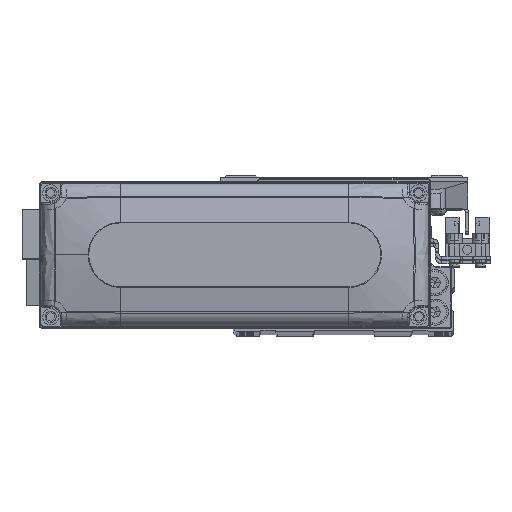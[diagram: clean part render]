
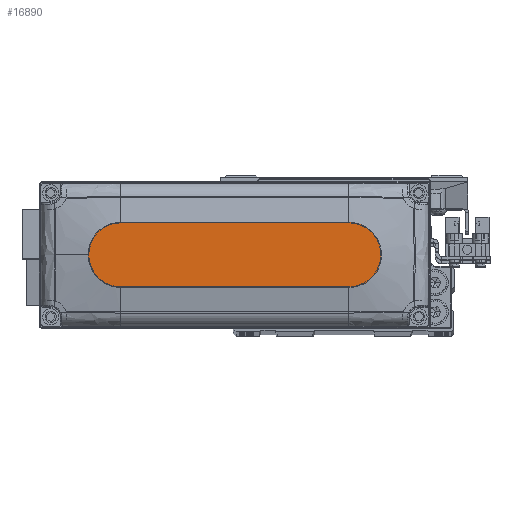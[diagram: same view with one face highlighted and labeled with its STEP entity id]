
A CAD part, top view. The second image highlights one B-rep face of the part: STEP entity #16890.
In plain terms, the highlighted planar face has unit normal (0, 0, 1).
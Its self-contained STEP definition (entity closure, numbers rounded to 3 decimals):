
#58 = CARTESIAN_POINT ( 'NONE',  ( 35., 0., 28. ) ) ;
#1032 = CARTESIAN_POINT ( 'NONE',  ( -35., 0., 28. ) ) ;
#2135 = VERTEX_POINT ( 'NONE', #6939 ) ;
#3746 = LINE ( 'NONE', #18021, #22053 ) ;
#4628 = ORIENTED_EDGE ( 'NONE', *, *, #12745, .T. ) ;
#5052 = CARTESIAN_POINT ( 'NONE',  ( -35., -10., 28. ) ) ;
#5202 = EDGE_CURVE ( 'NONE', #2135, #32108, #25987, .T. ) ;
#6939 = CARTESIAN_POINT ( 'NONE',  ( -35., 10., 28. ) ) ;
#8631 = VECTOR ( 'NONE', #13922, 1000. ) ;
#9603 = CARTESIAN_POINT ( 'NONE',  ( 35., 10., 28. ) ) ;
#12007 = EDGE_CURVE ( 'NONE', #26428, #2135, #3746, .T. ) ;
#12734 = DIRECTION ( 'NONE',  ( 0., 0., 1. ) ) ;
#12745 = EDGE_CURVE ( 'NONE', #32108, #40999, #31795, .T. ) ;
#13922 = DIRECTION ( 'NONE',  ( 1., 0., 0. ) ) ;
#14320 = DIRECTION ( 'NONE',  ( 0., 0., 1. ) ) ;
#14839 = AXIS2_PLACEMENT_3D ( 'NONE', #1032, #15301, #29639 ) ;
#15108 = AXIS2_PLACEMENT_3D ( 'NONE', #58, #14320, #28653 ) ;
#15199 = CARTESIAN_POINT ( 'NONE',  ( 35., -10., 28. ) ) ;
#15222 = CARTESIAN_POINT ( 'NONE',  ( 35., 0., 28. ) ) ;
#15301 = DIRECTION ( 'NONE',  ( 0., 0., 1. ) ) ;
#15490 = CIRCLE ( 'NONE', #41783, 10. ) ;
#16238 = FACE_OUTER_BOUND ( 'NONE', #34024, .T. ) ;
#16890 = ADVANCED_FACE ( 'NONE', ( #16238 ), #30583, .T. ) ;
#18021 = CARTESIAN_POINT ( 'NONE',  ( -35., 10., 28. ) ) ;
#20704 = EDGE_CURVE ( 'NONE', #40999, #34140, #35401, .T. ) ;
#22053 = VECTOR ( 'NONE', #32363, 1000. ) ;
#23002 = CARTESIAN_POINT ( 'NONE',  ( 45., 0., 28. ) ) ;
#24471 = ORIENTED_EDGE ( 'NONE', *, *, #20704, .T. ) ;
#25987 = CIRCLE ( 'NONE', #14839, 10. ) ;
#26428 = VERTEX_POINT ( 'NONE', #9603 ) ;
#27052 = DIRECTION ( 'NONE',  ( 1., 0., 0. ) ) ;
#28653 = DIRECTION ( 'NONE',  ( 1., 0., 0. ) ) ;
#29439 = EDGE_CURVE ( 'NONE', #34140, #26428, #15490, .T. ) ;
#29557 = DIRECTION ( 'NONE',  ( 0., 0., 1. ) ) ;
#29639 = DIRECTION ( 'NONE',  ( 1., 0., 0. ) ) ;
#30583 = PLANE ( 'NONE',  #33265 ) ;
#31795 = LINE ( 'NONE', #46134, #8631 ) ;
#32108 = VERTEX_POINT ( 'NONE', #5052 ) ;
#32363 = DIRECTION ( 'NONE',  ( -1., 0., 0. ) ) ;
#33265 = AXIS2_PLACEMENT_3D ( 'NONE', #44929, #12734, #27052 ) ;
#33477 = ORIENTED_EDGE ( 'NONE', *, *, #29439, .T. ) ;
#34024 = EDGE_LOOP ( 'NONE', ( #43948, #45410, #4628, #24471, #33477 ) ) ;
#34140 = VERTEX_POINT ( 'NONE', #23002 ) ;
#35401 = CIRCLE ( 'NONE', #15108, 10. ) ;
#40999 = VERTEX_POINT ( 'NONE', #15199 ) ;
#41783 = AXIS2_PLACEMENT_3D ( 'NONE', #15222, #29557, #43905 ) ;
#43905 = DIRECTION ( 'NONE',  ( 1., 0., 0. ) ) ;
#43948 = ORIENTED_EDGE ( 'NONE', *, *, #12007, .T. ) ;
#44929 = CARTESIAN_POINT ( 'NONE',  ( 0., 0., 28. ) ) ;
#45410 = ORIENTED_EDGE ( 'NONE', *, *, #5202, .T. ) ;
#46134 = CARTESIAN_POINT ( 'NONE',  ( -35., -10., 28. ) ) ;
